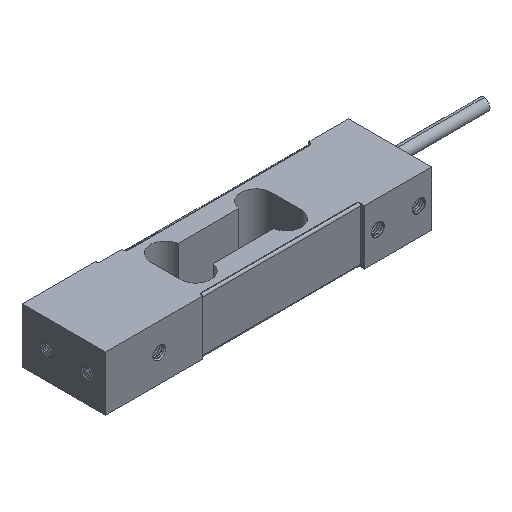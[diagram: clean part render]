
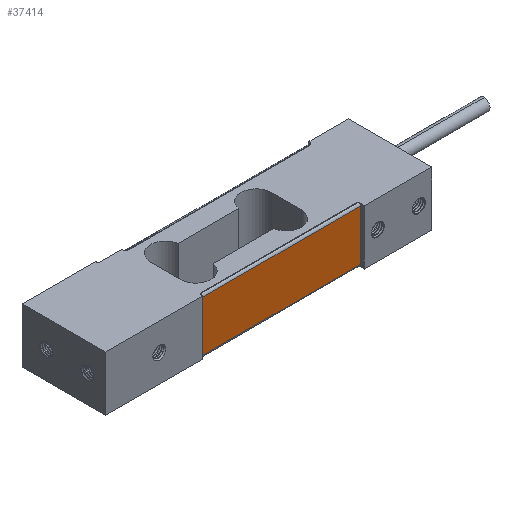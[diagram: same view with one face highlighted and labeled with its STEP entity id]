
A CAD part, isometric view. The second image highlights one B-rep face of the part: STEP entity #37414.
In plain terms, the highlighted planar face has unit normal (0, -1, 0).
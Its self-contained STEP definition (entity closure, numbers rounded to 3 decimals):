
#624 = EDGE_CURVE ( 'NONE', #51766, #101591, #65975, .T. ) ;
#2842 = VECTOR ( 'NONE', #89902, 1000. ) ;
#6314 = CARTESIAN_POINT ( 'NONE',  ( -29.937, -18.2, -11.7 ) ) ;
#6354 = DIRECTION ( 'NONE',  ( 0., 1., 0. ) ) ;
#10343 = VECTOR ( 'NONE', #71878, 1000. ) ;
#13049 = CARTESIAN_POINT ( 'NONE',  ( -29.937, -18.2, -11.7 ) ) ;
#14643 = CARTESIAN_POINT ( 'NONE',  ( 43.8, -18.2, 11.7 ) ) ;
#15825 = FACE_OUTER_BOUND ( 'NONE', #101582, .T. ) ;
#23455 = EDGE_CURVE ( 'NONE', #73222, #101591, #36586, .T. ) ;
#29258 = DIRECTION ( 'NONE',  ( 0., 0., -1. ) ) ;
#36586 = LINE ( 'NONE', #6314, #46742 ) ;
#37414 = ADVANCED_FACE ( 'NONE', ( #15825 ), #114200, .F. ) ;
#46742 = VECTOR ( 'NONE', #85773, 1000. ) ;
#51418 = CARTESIAN_POINT ( 'NONE',  ( -29.937, -18.2, 11.7 ) ) ;
#51766 = VERTEX_POINT ( 'NONE', #14643 ) ;
#61493 = LINE ( 'NONE', #51418, #2842 ) ;
#61894 = CARTESIAN_POINT ( 'NONE',  ( -29.937, -18.2, 11.7 ) ) ;
#63087 = ORIENTED_EDGE ( 'NONE', *, *, #23455, .T. ) ;
#64070 = VERTEX_POINT ( 'NONE', #61894 ) ;
#65627 = CARTESIAN_POINT ( 'NONE',  ( -29.937, -18.2, 12.7 ) ) ;
#65975 = LINE ( 'NONE', #71253, #10343 ) ;
#68352 = LINE ( 'NONE', #115687, #83218 ) ;
#71253 = CARTESIAN_POINT ( 'NONE',  ( 43.8, -18.2, 12.7 ) ) ;
#71717 = CARTESIAN_POINT ( 'NONE',  ( 43.8, -18.2, -11.7 ) ) ;
#71878 = DIRECTION ( 'NONE',  ( 0., 0., -1. ) ) ;
#73222 = VERTEX_POINT ( 'NONE', #13049 ) ;
#74905 = EDGE_CURVE ( 'NONE', #64070, #73222, #68352, .T. ) ;
#83218 = VECTOR ( 'NONE', #29258, 1000. ) ;
#84576 = DIRECTION ( 'NONE',  ( 0., 0., 1. ) ) ;
#85773 = DIRECTION ( 'NONE',  ( 1., 0., 0. ) ) ;
#89902 = DIRECTION ( 'NONE',  ( -1., 0., 0. ) ) ;
#92389 = EDGE_CURVE ( 'NONE', #51766, #64070, #61493, .T. ) ;
#97539 = ORIENTED_EDGE ( 'NONE', *, *, #624, .F. ) ;
#101582 = EDGE_LOOP ( 'NONE', ( #104932, #63087, #97539, #102501 ) ) ;
#101591 = VERTEX_POINT ( 'NONE', #71717 ) ;
#102501 = ORIENTED_EDGE ( 'NONE', *, *, #92389, .T. ) ;
#104932 = ORIENTED_EDGE ( 'NONE', *, *, #74905, .T. ) ;
#114200 = PLANE ( 'NONE',  #124493 ) ;
#115687 = CARTESIAN_POINT ( 'NONE',  ( -29.937, -18.2, 12.7 ) ) ;
#124493 = AXIS2_PLACEMENT_3D ( 'NONE', #65627, #6354, #84576 ) ;
